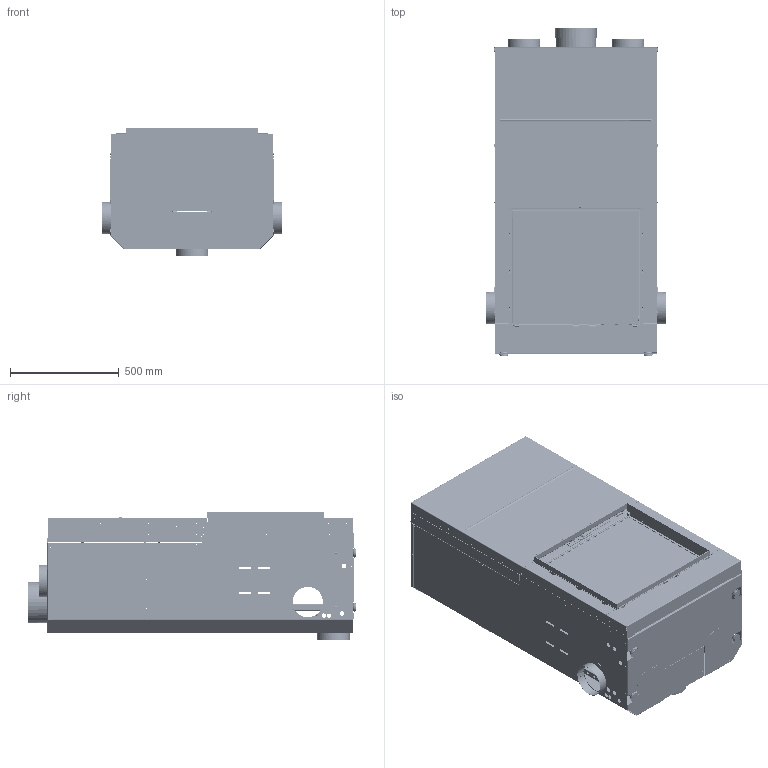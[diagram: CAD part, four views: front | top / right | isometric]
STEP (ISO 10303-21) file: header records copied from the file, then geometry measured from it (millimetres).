
FILE_DESCRIPTION (( 'STEP AP214' ), '1' );
FILE_NAME ('W60-51F.STEP', '2020-02-24T09:08:06', ( '' ), ( '' ), 'SwSTEP 2.0', 'SolidWorks 2018', '' );
FILE_SCHEMA (( 'AUTOMOTIVE_DESIGN' ));
Length unit declared in the file: millimetre
Products named in the file (1): W60-51F
Bounding box: 827 x 1506.69 x 587.8 mm (x, y, z)
Volume: 12891222.9 mm3; surface area: 15741972.9 mm2
Topology: 156 solids, 156 shells, 7854 faces, 20401 edges, 12890 vertices
Faces by surface type: plane 3894, cylinder 3132, cone 386, torus 238, bspline 198, sphere 6
Entity records: 343225 total; most frequent: CARTESIAN_POINT 55875, DIRECTION 42411, ORIENTED_EDGE 40782, EDGE_CURVE 20391, AXIS2_PLACEMENT_3D 14844, VERTEX_POINT 12886, LINE 12723, VECTOR 12723
